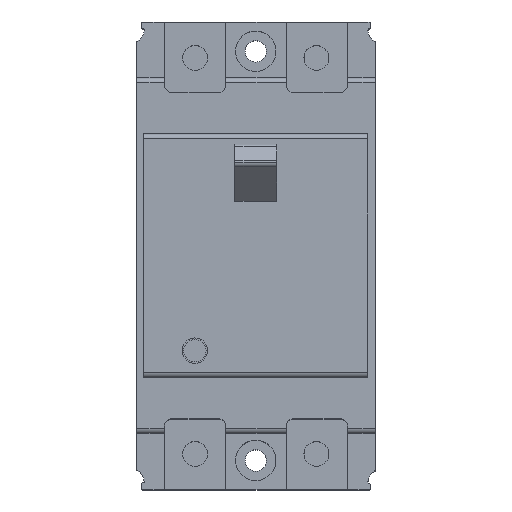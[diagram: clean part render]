
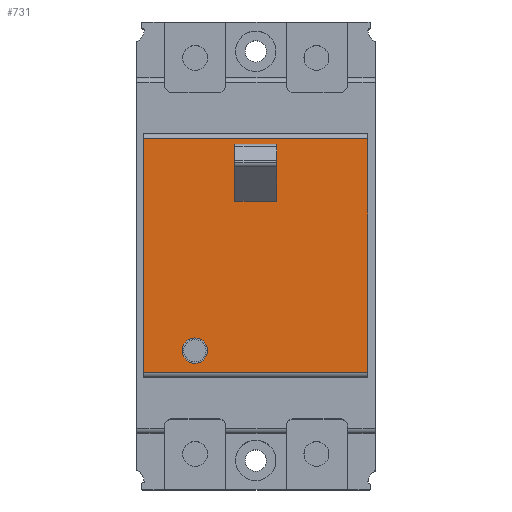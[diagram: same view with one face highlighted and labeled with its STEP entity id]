
A CAD part, top view. The second image highlights one B-rep face of the part: STEP entity #731.
In plain terms, the highlighted planar face has unit normal (0, 0, 1).
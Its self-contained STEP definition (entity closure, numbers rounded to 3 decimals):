
#58 = FACE_BOUND ( 'NONE', #2196, .T. ) ;
#66 = EDGE_CURVE ( 'NONE', #1815, #1464, #1625, .T. ) ;
#77 = DIRECTION ( 'NONE',  ( -1., 0., 0. ) ) ;
#125 = VECTOR ( 'NONE', #4048, 1000. ) ;
#142 = CIRCLE ( 'NONE', #4161, 2.6 ) ;
#206 = CARTESIAN_POINT ( 'NONE',  ( 25., 0., 60. ) ) ;
#226 = VECTOR ( 'NONE', #1738, 1000. ) ;
#254 = AXIS2_PLACEMENT_3D ( 'NONE', #3973, #5358, #2278 ) ;
#266 = CARTESIAN_POINT ( 'NONE',  ( 23., 0., 60. ) ) ;
#267 = DIRECTION ( 'NONE',  ( -1., 0., 0. ) ) ;
#303 = DIRECTION ( 'NONE',  ( 0., -1., 0. ) ) ;
#340 = CARTESIAN_POINT ( 'NONE',  ( -4.3, 0., 60. ) ) ;
#358 = EDGE_CURVE ( 'NONE', #1464, #5525, #5524, .T. ) ;
#462 = CARTESIAN_POINT ( 'NONE',  ( 4.3, 0., 60. ) ) ;
#475 = LINE ( 'NONE', #340, #3827 ) ;
#479 = FACE_OUTER_BOUND ( 'NONE', #5605, .T. ) ;
#504 = VECTOR ( 'NONE', #1898, 1000. ) ;
#505 = EDGE_CURVE ( 'NONE', #1081, #1434, #4393, .T. ) ;
#516 = CARTESIAN_POINT ( 'NONE',  ( -4.3, 17.719, 60. ) ) ;
#529 = EDGE_CURVE ( 'NONE', #2917, #2412, #551, .T. ) ;
#551 = LINE ( 'NONE', #3605, #2700 ) ;
#579 = ORIENTED_EDGE ( 'NONE', *, *, #4074, .T. ) ;
#622 = CARTESIAN_POINT ( 'NONE',  ( 4.3, 17.719, 60. ) ) ;
#645 = LINE ( 'NONE', #3931, #226 ) ;
#675 = LINE ( 'NONE', #2356, #125 ) ;
#731 = ADVANCED_FACE ( 'NONE', ( #58, #1382, #479 ), #3293, .F. ) ;
#807 = CARTESIAN_POINT ( 'NONE',  ( -1., 14.761, 60. ) ) ;
#874 = EDGE_CURVE ( 'NONE', #5525, #4045, #475, .T. ) ;
#876 = CARTESIAN_POINT ( 'NONE',  ( 25., -22.2, 60. ) ) ;
#890 = VECTOR ( 'NONE', #303, 1000. ) ;
#1081 = VERTEX_POINT ( 'NONE', #2631 ) ;
#1192 = VERTEX_POINT ( 'NONE', #516 ) ;
#1200 = ORIENTED_EDGE ( 'NONE', *, *, #505, .F. ) ;
#1260 = CARTESIAN_POINT ( 'NONE',  ( -4.3, 0., 60. ) ) ;
#1382 = FACE_BOUND ( 'NONE', #2389, .T. ) ;
#1429 = ORIENTED_EDGE ( 'NONE', *, *, #1977, .T. ) ;
#1434 = VERTEX_POINT ( 'NONE', #4768 ) ;
#1464 = VERTEX_POINT ( 'NONE', #807 ) ;
#1513 = ORIENTED_EDGE ( 'NONE', *, *, #3434, .T. ) ;
#1527 = ORIENTED_EDGE ( 'NONE', *, *, #1905, .F. ) ;
#1531 = DIRECTION ( 'NONE',  ( 0., 0., -1. ) ) ;
#1536 = LINE ( 'NONE', #3855, #2350 ) ;
#1568 = CARTESIAN_POINT ( 'NONE',  ( -23., 25.8, 60. ) ) ;
#1594 = CARTESIAN_POINT ( 'NONE',  ( 4.3, 0., 60. ) ) ;
#1601 = CARTESIAN_POINT ( 'NONE',  ( 23., 25.8, 60. ) ) ;
#1625 = LINE ( 'NONE', #3595, #2939 ) ;
#1738 = DIRECTION ( 'NONE',  ( 0., -1., 0. ) ) ;
#1783 = ORIENTED_EDGE ( 'NONE', *, *, #358, .F. ) ;
#1793 = LINE ( 'NONE', #266, #890 ) ;
#1815 = VERTEX_POINT ( 'NONE', #3035 ) ;
#1872 = CARTESIAN_POINT ( 'NONE',  ( 1., 17.719, 60. ) ) ;
#1898 = DIRECTION ( 'NONE',  ( 0., 1., 0. ) ) ;
#1905 = EDGE_CURVE ( 'NONE', #3456, #1192, #3004, .T. ) ;
#1977 = EDGE_CURVE ( 'NONE', #4690, #3612, #645, .T. ) ;
#2152 = DIRECTION ( 'NONE',  ( 1., 0., 0. ) ) ;
#2196 = EDGE_LOOP ( 'NONE', ( #4895, #1200 ) ) ;
#2276 = VERTEX_POINT ( 'NONE', #622 ) ;
#2278 = DIRECTION ( 'NONE',  ( 1., 0., 0. ) ) ;
#2333 = DIRECTION ( 'NONE',  ( 0., -1., 0. ) ) ;
#2350 = VECTOR ( 'NONE', #2971, 1000. ) ;
#2356 = CARTESIAN_POINT ( 'NONE',  ( 4.3, 12.965, 60. ) ) ;
#2385 = EDGE_CURVE ( 'NONE', #2917, #5214, #1793, .T. ) ;
#2389 = EDGE_LOOP ( 'NONE', ( #3774, #1429, #5011, #1513, #3086, #2772, #1783, #5352, #4091, #1527, #4075, #579 ) ) ;
#2412 = VERTEX_POINT ( 'NONE', #1568 ) ;
#2421 = VECTOR ( 'NONE', #3074, 1000. ) ;
#2459 = EDGE_CURVE ( 'NONE', #4487, #3612, #4255, .T. ) ;
#2468 = CARTESIAN_POINT ( 'NONE',  ( 4.3, 17.719, 60. ) ) ;
#2554 = DIRECTION ( 'NONE',  ( -1., 0., 0. ) ) ;
#2602 = CARTESIAN_POINT ( 'NONE',  ( 4.3, 14.761, 60. ) ) ;
#2631 = CARTESIAN_POINT ( 'NONE',  ( -15.1, -17.7, 60. ) ) ;
#2682 = DIRECTION ( 'NONE',  ( 0., -1., 0. ) ) ;
#2700 = VECTOR ( 'NONE', #77, 1000. ) ;
#2772 = ORIENTED_EDGE ( 'NONE', *, *, #874, .F. ) ;
#2775 = LINE ( 'NONE', #3095, #3860 ) ;
#2780 = LINE ( 'NONE', #462, #5263 ) ;
#2786 = VERTEX_POINT ( 'NONE', #5419 ) ;
#2802 = EDGE_CURVE ( 'NONE', #4596, #4045, #675, .T. ) ;
#2828 = VECTOR ( 'NONE', #2554, 1000. ) ;
#2917 = VERTEX_POINT ( 'NONE', #1601 ) ;
#2939 = VECTOR ( 'NONE', #2333, 1000. ) ;
#2971 = DIRECTION ( 'NONE',  ( -1., 0., 0. ) ) ;
#3004 = LINE ( 'NONE', #1260, #4783 ) ;
#3035 = CARTESIAN_POINT ( 'NONE',  ( -1., 17.719, 60. ) ) ;
#3074 = DIRECTION ( 'NONE',  ( -1., 0., 0. ) ) ;
#3086 = ORIENTED_EDGE ( 'NONE', *, *, #2802, .T. ) ;
#3095 = CARTESIAN_POINT ( 'NONE',  ( 4.3, 19.474, 60. ) ) ;
#3097 = ORIENTED_EDGE ( 'NONE', *, *, #2385, .F. ) ;
#3105 = CARTESIAN_POINT ( 'NONE',  ( -12.5, -17.7, 60. ) ) ;
#3235 = LINE ( 'NONE', #876, #2421 ) ;
#3293 = PLANE ( 'NONE',  #3535 ) ;
#3434 = EDGE_CURVE ( 'NONE', #4487, #4596, #5188, .T. ) ;
#3453 = DIRECTION ( 'NONE',  ( 0., -1., 0. ) ) ;
#3456 = VERTEX_POINT ( 'NONE', #5579 ) ;
#3511 = CARTESIAN_POINT ( 'NONE',  ( -4.3, 12.965, 60. ) ) ;
#3527 = DIRECTION ( 'NONE',  ( 0., 0., 1. ) ) ;
#3535 = AXIS2_PLACEMENT_3D ( 'NONE', #206, #1531, #4666 ) ;
#3549 = DIRECTION ( 'NONE',  ( -1., 0., 0. ) ) ;
#3595 = CARTESIAN_POINT ( 'NONE',  ( -1., 0., 60. ) ) ;
#3605 = CARTESIAN_POINT ( 'NONE',  ( 25., 25.8, 60. ) ) ;
#3612 = VERTEX_POINT ( 'NONE', #5679 ) ;
#3671 = CARTESIAN_POINT ( 'NONE',  ( 23., -22.2, 60. ) ) ;
#3774 = ORIENTED_EDGE ( 'NONE', *, *, #4894, .T. ) ;
#3806 = ORIENTED_EDGE ( 'NONE', *, *, #5037, .F. ) ;
#3827 = VECTOR ( 'NONE', #3828, 1000. ) ;
#3828 = DIRECTION ( 'NONE',  ( 0., -1., 0. ) ) ;
#3847 = CARTESIAN_POINT ( 'NONE',  ( -4.3, 14.761, 60. ) ) ;
#3855 = CARTESIAN_POINT ( 'NONE',  ( 4.3, 17.719, 60. ) ) ;
#3860 = VECTOR ( 'NONE', #3549, 1000. ) ;
#3890 = EDGE_CURVE ( 'NONE', #1815, #1192, #4179, .T. ) ;
#3931 = CARTESIAN_POINT ( 'NONE',  ( 1., 0., 60. ) ) ;
#3953 = CARTESIAN_POINT ( 'NONE',  ( 4.3, 14.761, 60. ) ) ;
#3973 = CARTESIAN_POINT ( 'NONE',  ( -12.5, -17.7, 60. ) ) ;
#4045 = VERTEX_POINT ( 'NONE', #3511 ) ;
#4048 = DIRECTION ( 'NONE',  ( -1., 0., 0. ) ) ;
#4074 = EDGE_CURVE ( 'NONE', #5462, #2276, #2780, .T. ) ;
#4075 = ORIENTED_EDGE ( 'NONE', *, *, #4627, .F. ) ;
#4091 = ORIENTED_EDGE ( 'NONE', *, *, #3890, .T. ) ;
#4161 = AXIS2_PLACEMENT_3D ( 'NONE', #3105, #3527, #2152 ) ;
#4179 = LINE ( 'NONE', #2468, #5712 ) ;
#4198 = EDGE_CURVE ( 'NONE', #2786, #2412, #4486, .T. ) ;
#4255 = LINE ( 'NONE', #5200, #2828 ) ;
#4345 = DIRECTION ( 'NONE',  ( -1., 0., 0. ) ) ;
#4351 = CARTESIAN_POINT ( 'NONE',  ( 4.3, 19.474, 60. ) ) ;
#4393 = CIRCLE ( 'NONE', #254, 2.6 ) ;
#4486 = LINE ( 'NONE', #4976, #504 ) ;
#4487 = VERTEX_POINT ( 'NONE', #2602 ) ;
#4596 = VERTEX_POINT ( 'NONE', #4822 ) ;
#4627 = EDGE_CURVE ( 'NONE', #5462, #3456, #2775, .T. ) ;
#4653 = DIRECTION ( 'NONE',  ( 0., -1., 0. ) ) ;
#4666 = DIRECTION ( 'NONE',  ( -1., 0., 0. ) ) ;
#4690 = VERTEX_POINT ( 'NONE', #1872 ) ;
#4741 = ORIENTED_EDGE ( 'NONE', *, *, #4198, .F. ) ;
#4768 = CARTESIAN_POINT ( 'NONE',  ( -9.9, -17.7, 60. ) ) ;
#4783 = VECTOR ( 'NONE', #3453, 1000. ) ;
#4822 = CARTESIAN_POINT ( 'NONE',  ( 4.3, 12.965, 60. ) ) ;
#4894 = EDGE_CURVE ( 'NONE', #2276, #4690, #1536, .T. ) ;
#4895 = ORIENTED_EDGE ( 'NONE', *, *, #4995, .F. ) ;
#4976 = CARTESIAN_POINT ( 'NONE',  ( -23., 0., 60. ) ) ;
#4995 = EDGE_CURVE ( 'NONE', #1434, #1081, #142, .T. ) ;
#5011 = ORIENTED_EDGE ( 'NONE', *, *, #2459, .F. ) ;
#5037 = EDGE_CURVE ( 'NONE', #5214, #2786, #3235, .T. ) ;
#5188 = LINE ( 'NONE', #1594, #5677 ) ;
#5200 = CARTESIAN_POINT ( 'NONE',  ( 4.3, 14.761, 60. ) ) ;
#5214 = VERTEX_POINT ( 'NONE', #3671 ) ;
#5240 = VECTOR ( 'NONE', #4345, 1000. ) ;
#5263 = VECTOR ( 'NONE', #2682, 1000. ) ;
#5338 = ORIENTED_EDGE ( 'NONE', *, *, #529, .T. ) ;
#5352 = ORIENTED_EDGE ( 'NONE', *, *, #66, .F. ) ;
#5358 = DIRECTION ( 'NONE',  ( 0., 0., 1. ) ) ;
#5419 = CARTESIAN_POINT ( 'NONE',  ( -23., -22.2, 60. ) ) ;
#5462 = VERTEX_POINT ( 'NONE', #4351 ) ;
#5524 = LINE ( 'NONE', #3953, #5240 ) ;
#5525 = VERTEX_POINT ( 'NONE', #3847 ) ;
#5579 = CARTESIAN_POINT ( 'NONE',  ( -4.3, 19.474, 60. ) ) ;
#5605 = EDGE_LOOP ( 'NONE', ( #4741, #3806, #3097, #5338 ) ) ;
#5677 = VECTOR ( 'NONE', #4653, 1000. ) ;
#5679 = CARTESIAN_POINT ( 'NONE',  ( 1., 14.761, 60. ) ) ;
#5712 = VECTOR ( 'NONE', #267, 1000. ) ;
